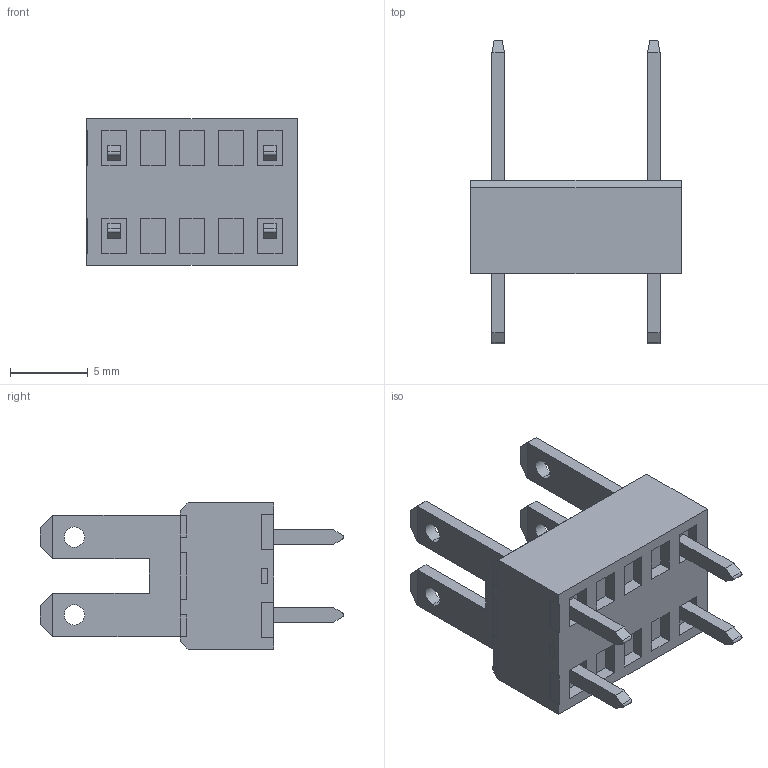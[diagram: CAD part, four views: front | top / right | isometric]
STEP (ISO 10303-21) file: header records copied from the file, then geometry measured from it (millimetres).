
FILE_DESCRIPTION (( 'STEP AP214' ), '1' );
FILE_NAME ('900-SH-10-02.STEP', '2007-11-04T01:52:15', ( ' ' ), ( '' ), 'SwSTEP 2.0', 'SolidWorks 2007', '' );
FILE_SCHEMA (( 'AUTOMOTIVE_DESIGN' ));
Length unit declared in the file: millimetre
Products named in the file (1): 900-SH-10-02
Bounding box: 13.5 x 19.5 x 9.4 mm (x, y, z)
Volume: 811.4 mm3; surface area: 996 mm2
Topology: 7 solids, 7 shells, 297 faces, 740 edges, 476 vertices
Faces by surface type: plane 267, cylinder 30
Entity records: 8731 total; most frequent: CARTESIAN_POINT 1514, ORIENTED_EDGE 1480, DIRECTION 1396, EDGE_CURVE 740, VECTOR 680, LINE 680, VERTEX_POINT 476, AXIS2_PLACEMENT_3D 358
